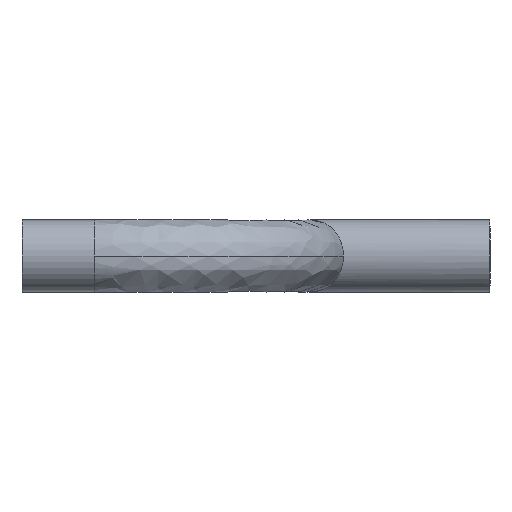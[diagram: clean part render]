
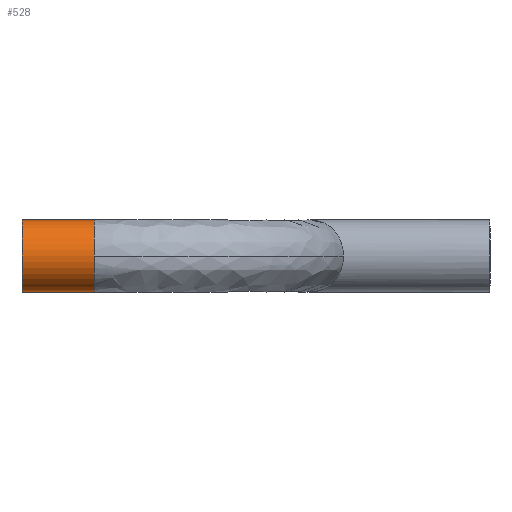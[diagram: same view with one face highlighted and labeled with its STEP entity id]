
A CAD part, left-side view. The second image highlights one B-rep face of the part: STEP entity #528.
In plain terms, the highlighted cylindrical face has radius 9.525 mm (diameter 19.05 mm), a partial arc.
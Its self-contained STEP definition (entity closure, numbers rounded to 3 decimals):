
#29 = CARTESIAN_POINT ( 'NONE',  ( -57.15, 57.15, 9.525 ) ) ;
#56 = CARTESIAN_POINT ( 'NONE',  ( -57.15, 76.2, 0. ) ) ;
#70 = CIRCLE ( 'NONE', #122, 9.525 ) ;
#78 = CARTESIAN_POINT ( 'NONE',  ( -57.15, 76.2, 9.525 ) ) ;
#87 = LINE ( 'NONE', #901, #357 ) ;
#115 = VERTEX_POINT ( 'NONE', #891 ) ;
#122 = AXIS2_PLACEMENT_3D ( 'NONE', #815, #313, #895 ) ;
#128 = ORIENTED_EDGE ( 'NONE', *, *, #1034, .T. ) ;
#140 = VECTOR ( 'NONE', #898, 1000. ) ;
#146 = ORIENTED_EDGE ( 'NONE', *, *, #878, .T. ) ;
#168 = DIRECTION ( 'NONE',  ( 0., -1., 0. ) ) ;
#200 = FACE_OUTER_BOUND ( 'NONE', #220, .T. ) ;
#220 = EDGE_LOOP ( 'NONE', ( #866, #449, #550, #128, #146 ) ) ;
#224 = AXIS2_PLACEMENT_3D ( 'NONE', #56, #1005, #275 ) ;
#254 = AXIS2_PLACEMENT_3D ( 'NONE', #348, #490, #993 ) ;
#275 = DIRECTION ( 'NONE',  ( 0., 0., 1. ) ) ;
#277 = EDGE_CURVE ( 'NONE', #593, #1062, #70, .T. ) ;
#313 = DIRECTION ( 'NONE',  ( 0., -1., 0. ) ) ;
#348 = CARTESIAN_POINT ( 'NONE',  ( -57.15, 57.15, 0. ) ) ;
#349 = CARTESIAN_POINT ( 'NONE',  ( -66.675, 57.15, 0. ) ) ;
#354 = CARTESIAN_POINT ( 'NONE',  ( -57.15, 76.2, -9.525 ) ) ;
#357 = VECTOR ( 'NONE', #591, 1000. ) ;
#378 = VERTEX_POINT ( 'NONE', #78 ) ;
#394 = EDGE_CURVE ( 'NONE', #1062, #115, #758, .T. ) ;
#449 = ORIENTED_EDGE ( 'NONE', *, *, #394, .F. ) ;
#476 = CARTESIAN_POINT ( 'NONE',  ( -57.15, 57.15, -9.525 ) ) ;
#490 = DIRECTION ( 'NONE',  ( 0., 1., 0. ) ) ;
#528 = ADVANCED_FACE ( 'NONE', ( #200 ), #1058, .T. ) ;
#548 = AXIS2_PLACEMENT_3D ( 'NONE', #663, #168, #751 ) ;
#550 = ORIENTED_EDGE ( 'NONE', *, *, #277, .F. ) ;
#566 = CIRCLE ( 'NONE', #224, 9.525 ) ;
#591 = DIRECTION ( 'NONE',  ( 0., 1., 0. ) ) ;
#593 = VERTEX_POINT ( 'NONE', #29 ) ;
#663 = CARTESIAN_POINT ( 'NONE',  ( -57.15, 57.15, 0. ) ) ;
#751 = DIRECTION ( 'NONE',  ( -1., 0., 0. ) ) ;
#758 = CIRCLE ( 'NONE', #548, 9.525 ) ;
#790 = VERTEX_POINT ( 'NONE', #354 ) ;
#815 = CARTESIAN_POINT ( 'NONE',  ( -57.15, 57.15, 0. ) ) ;
#866 = ORIENTED_EDGE ( 'NONE', *, *, #998, .F. ) ;
#878 = EDGE_CURVE ( 'NONE', #378, #790, #566, .T. ) ;
#891 = CARTESIAN_POINT ( 'NONE',  ( -57.15, 57.15, -9.525 ) ) ;
#895 = DIRECTION ( 'NONE',  ( -1., 0., 0. ) ) ;
#898 = DIRECTION ( 'NONE',  ( 0., 1., 0. ) ) ;
#901 = CARTESIAN_POINT ( 'NONE',  ( -57.15, 57.15, 9.525 ) ) ;
#966 = LINE ( 'NONE', #476, #140 ) ;
#993 = DIRECTION ( 'NONE',  ( 0., 0., 1. ) ) ;
#998 = EDGE_CURVE ( 'NONE', #115, #790, #966, .T. ) ;
#1005 = DIRECTION ( 'NONE',  ( 0., -1., 0. ) ) ;
#1034 = EDGE_CURVE ( 'NONE', #593, #378, #87, .T. ) ;
#1058 = CYLINDRICAL_SURFACE ( 'NONE', #254, 9.525 ) ;
#1062 = VERTEX_POINT ( 'NONE', #349 ) ;
